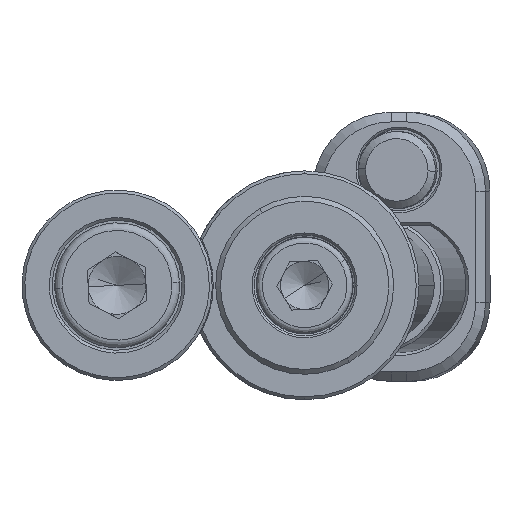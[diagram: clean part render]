
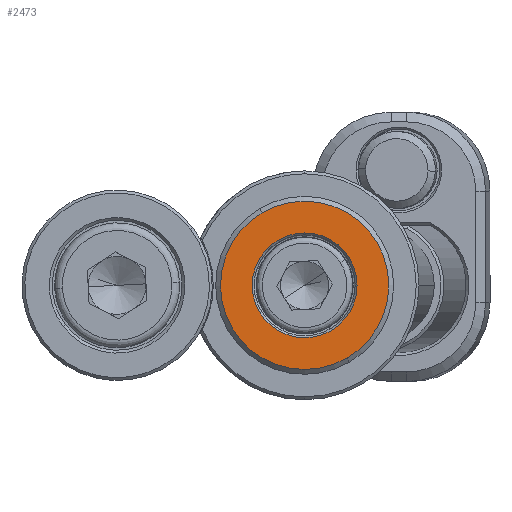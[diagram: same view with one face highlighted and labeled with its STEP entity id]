
A CAD part, front view. The second image highlights one B-rep face of the part: STEP entity #2473.
In plain terms, the highlighted planar face has unit normal (0, -1, 0).
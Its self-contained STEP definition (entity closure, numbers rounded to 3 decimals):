
#481 = CARTESIAN_POINT ( 'NONE',  ( 0., -4., 0. ) ) ;
#876 = CARTESIAN_POINT ( 'NONE',  ( 0., -4., 0. ) ) ;
#1692 = ORIENTED_EDGE ( 'NONE', *, *, #7140, .T. ) ;
#1743 = CIRCLE ( 'NONE', #6114, 5.45 ) ;
#1825 = FACE_BOUND ( 'NONE', #9161, .T. ) ;
#2433 = CARTESIAN_POINT ( 'NONE',  ( -4.42, -4., 7.552 ) ) ;
#2473 = ADVANCED_FACE ( 'NONE', ( #1825, #11632 ), #4025, .F. ) ;
#3068 = EDGE_LOOP ( 'NONE', ( #1692, #6090 ) ) ;
#3120 = CIRCLE ( 'NONE', #11270, 8.75 ) ;
#3715 = EDGE_CURVE ( 'NONE', #13232, #10428, #3120, .T. ) ;
#3764 = EDGE_CURVE ( 'NONE', #5955, #11953, #1743, .T. ) ;
#3786 = DIRECTION ( 'NONE',  ( 0., 1., 0. ) ) ;
#4025 = PLANE ( 'NONE',  #8097 ) ;
#4236 = DIRECTION ( 'NONE',  ( -0.505, 0., 0.863 ) ) ;
#4722 = CARTESIAN_POINT ( 'NONE',  ( -2.753, -4., 4.704 ) ) ;
#4731 = EDGE_CURVE ( 'NONE', #11953, #5955, #5485, .T. ) ;
#5485 = CIRCLE ( 'NONE', #10098, 5.45 ) ;
#5955 = VERTEX_POINT ( 'NONE', #9210 ) ;
#6090 = ORIENTED_EDGE ( 'NONE', *, *, #3715, .T. ) ;
#6114 = AXIS2_PLACEMENT_3D ( 'NONE', #876, #13078, #4236 ) ;
#7140 = EDGE_CURVE ( 'NONE', #10428, #13232, #7918, .T. ) ;
#7918 = CIRCLE ( 'NONE', #11419, 8.75 ) ;
#8097 = AXIS2_PLACEMENT_3D ( 'NONE', #8477, #14015, #13800 ) ;
#8168 = ORIENTED_EDGE ( 'NONE', *, *, #4731, .T. ) ;
#8223 = DIRECTION ( 'NONE',  ( -0.505, 0., 0.863 ) ) ;
#8245 = CARTESIAN_POINT ( 'NONE',  ( 0., -4., 0. ) ) ;
#8274 = CARTESIAN_POINT ( 'NONE',  ( 4.42, -4., -7.552 ) ) ;
#8477 = CARTESIAN_POINT ( 'NONE',  ( -4.531, -4., -2.652 ) ) ;
#8697 = DIRECTION ( 'NONE',  ( -0.505, 0., 0.863 ) ) ;
#9161 = EDGE_LOOP ( 'NONE', ( #13210, #8168 ) ) ;
#9210 = CARTESIAN_POINT ( 'NONE',  ( 2.753, -4., -4.704 ) ) ;
#10098 = AXIS2_PLACEMENT_3D ( 'NONE', #481, #3786, #8223 ) ;
#10428 = VERTEX_POINT ( 'NONE', #2433 ) ;
#10676 = CARTESIAN_POINT ( 'NONE',  ( 0., -4., 0. ) ) ;
#11270 = AXIS2_PLACEMENT_3D ( 'NONE', #10676, #13947, #8697 ) ;
#11419 = AXIS2_PLACEMENT_3D ( 'NONE', #8245, #12424, #13781 ) ;
#11632 = FACE_OUTER_BOUND ( 'NONE', #3068, .T. ) ;
#11953 = VERTEX_POINT ( 'NONE', #4722 ) ;
#12424 = DIRECTION ( 'NONE',  ( 0., -1., 0. ) ) ;
#13078 = DIRECTION ( 'NONE',  ( 0., 1., 0. ) ) ;
#13210 = ORIENTED_EDGE ( 'NONE', *, *, #3764, .T. ) ;
#13232 = VERTEX_POINT ( 'NONE', #8274 ) ;
#13781 = DIRECTION ( 'NONE',  ( -0.505, 0., 0.863 ) ) ;
#13800 = DIRECTION ( 'NONE',  ( -0.505, 0., 0.863 ) ) ;
#13947 = DIRECTION ( 'NONE',  ( 0., -1., 0. ) ) ;
#14015 = DIRECTION ( 'NONE',  ( 0., 1., 0. ) ) ;
